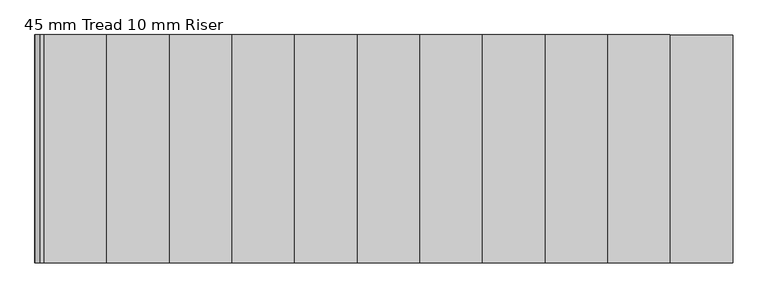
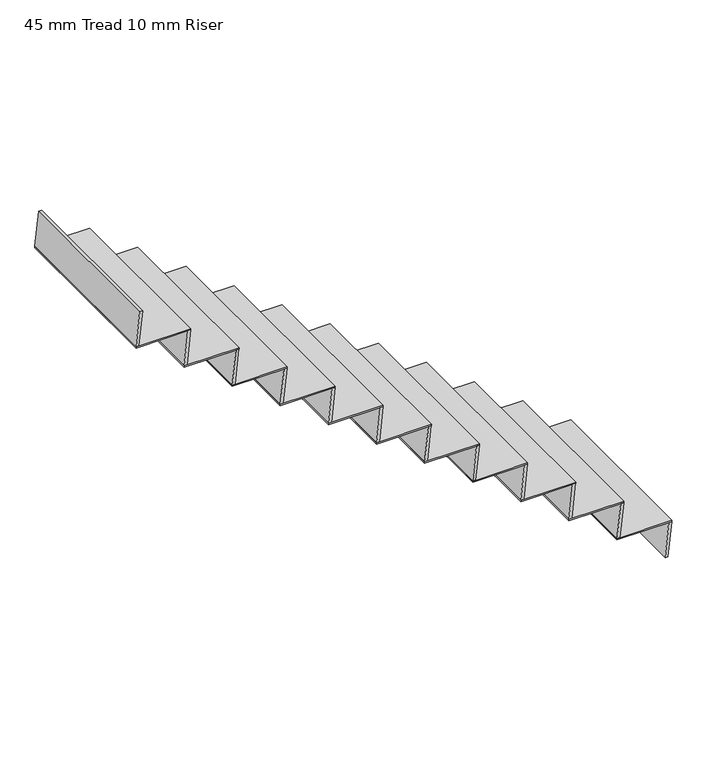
"""IFC4 building model written with IfcOpenShell, lengths in millimetres: stair flight geometry, 45 mm Tread 10 mm Riser."""

from ifc_helpers import new_model, si_unit, frame, origin, place, context, project, spatial, polyline, outline, extrude, source, transform, mapped, element, save


def stair_flight_45_mm_tread_10_mm_riser_8d5d8b70(model_context):
    return source(origin(), model_context, "Body", "SweptSolid", [
        extrude(outline(polyline([(14700.5000334, 7849.9999985), (14415.4195906, 7849.9999985), (14415.4195906, 8759.9999985), (14700.5000334, 8759.9999985), (14700.5000334, 7849.9999985)])), frame((0.0, 0.0, 8621.0714286), z_axis=(0.0, 0.0, 1.0), x_axis=(1.0, 0.0, 0.0)), (0.0, 0.0, 1.0), 7.5),
        extrude(outline(polyline([(8621.0714286, 14699.7222556), (8621.0714286, 14684.6418129), (8435.7142857, 14665.4195906), (8435.7142857, 14680.5000334), (8621.0714286, 14699.7222556)])), frame((0.0, 7849.9999985, 0.0), z_axis=(0.0, 1.0, 0.0), x_axis=(0.0, 0.0, 1.0)), (0.0, 0.0, 1.0), 910.0),
        extrude(outline(polyline([(8813.9285714, 14449.7222556), (8813.9285714, 14434.6418129), (8628.5714286, 14415.4195906), (8628.5714286, 14430.5000334), (8813.9285714, 14449.7222556)])), frame((0.0, 7849.9999985, 0.0), z_axis=(0.0, 1.0, 0.0), x_axis=(0.0, 0.0, 1.0)), (0.0, 0.0, 1.0), 910.0),
        extrude(outline(polyline([(14450.5000334, 7849.9999985), (14165.4195906, 7849.9999985), (14165.4195906, 8759.9999985), (14450.5000334, 8759.9999985), (14450.5000334, 7849.9999985)])), frame((0.0, 0.0, 8813.9285714), z_axis=(0.0, 0.0, 1.0), x_axis=(1.0, 0.0, 0.0)), (0.0, 0.0, 1.0), 7.5),
        extrude(outline(polyline([(9006.7857143, 14199.7222556), (9006.7857143, 14184.6418129), (8821.4285714, 14165.4195906), (8821.4285714, 14180.5000334), (9006.7857143, 14199.7222556)])), frame((0.0, 7849.9999985, 0.0), z_axis=(0.0, 1.0, 0.0), x_axis=(0.0, 0.0, 1.0)), (0.0, 0.0, 1.0), 910.0),
        extrude(outline(polyline([(14200.5000334, 7849.9999985), (13915.4195906, 7849.9999985), (13915.4195906, 8759.9999985), (14200.5000334, 8759.9999985), (14200.5000334, 7849.9999985)])), frame((0.0, 0.0, 9006.7857143), z_axis=(0.0, 0.0, 1.0), x_axis=(1.0, 0.0, 0.0)), (0.0, 0.0, 1.0), 7.5),
        extrude(outline(polyline([(9199.6428571, 13949.7222556), (9199.6428571, 13934.6418129), (9014.2857143, 13915.4195906), (9014.2857143, 13930.5000334), (9199.6428571, 13949.7222556)])), frame((0.0, 7849.9999985, 0.0), z_axis=(0.0, 1.0, 0.0), x_axis=(0.0, 0.0, 1.0)), (0.0, 0.0, 1.0), 910.0),
        extrude(outline(polyline([(13950.5000334, 7849.9999985), (13665.4195906, 7849.9999985), (13665.4195906, 8759.9999985), (13950.5000334, 8759.9999985), (13950.5000334, 7849.9999985)])), frame((0.0, 0.0, 9199.6428571), z_axis=(0.0, 0.0, 1.0), x_axis=(1.0, 0.0, 0.0)), (0.0, 0.0, 1.0), 7.5),
        extrude(outline(polyline([(9392.5, 13699.7222556), (9392.5, 13684.6418129), (9207.1428571, 13665.4195906), (9207.1428571, 13680.5000334), (9392.5, 13699.7222556)])), frame((0.0, 7849.9999985, 0.0), z_axis=(0.0, 1.0, 0.0), x_axis=(0.0, 0.0, 1.0)), (0.0, 0.0, 1.0), 910.0),
        extrude(outline(polyline([(13700.5000334, 7849.9999985), (13415.4195906, 7849.9999985), (13415.4195906, 8759.9999985), (13700.5000334, 8759.9999985), (13700.5000334, 7849.9999985)])), frame((0.0, 0.0, 9392.5), z_axis=(0.0, 0.0, 1.0), x_axis=(1.0, 0.0, 0.0)), (0.0, 0.0, 1.0), 7.5),
        extrude(outline(polyline([(9585.3571429, 13449.7222556), (9585.3571429, 13434.6418129), (9400.0, 13415.4195906), (9400.0, 13430.5000334), (9585.3571429, 13449.7222556)])), frame((0.0, 7849.9999985, 0.0), z_axis=(0.0, 1.0, 0.0), x_axis=(0.0, 0.0, 1.0)), (0.0, 0.0, 1.0), 910.0),
        extrude(outline(polyline([(13450.5000334, 7849.9999985), (13165.4195906, 7849.9999985), (13165.4195906, 8759.9999985), (13450.5000334, 8759.9999985), (13450.5000334, 7849.9999985)])), frame((0.0, 0.0, 9585.3571429), z_axis=(0.0, 0.0, 1.0), x_axis=(1.0, 0.0, 0.0)), (0.0, 0.0, 1.0), 7.5),
        extrude(outline(polyline([(9778.2142857, 13199.7222556), (9778.2142857, 13184.6418129), (9592.8571429, 13165.4195906), (9592.8571429, 13180.5000334), (9778.2142857, 13199.7222556)])), frame((0.0, 7849.9999985, 0.0), z_axis=(0.0, 1.0, 0.0), x_axis=(0.0, 0.0, 1.0)), (0.0, 0.0, 1.0), 910.0),
        extrude(outline(polyline([(13200.5000334, 7849.9999985), (12915.4195906, 7849.9999985), (12915.4195906, 8759.9999985), (13200.5000334, 8759.9999985), (13200.5000334, 7849.9999985)])), frame((0.0, 0.0, 9778.2142857), z_axis=(0.0, 0.0, 1.0), x_axis=(1.0, 0.0, 0.0)), (0.0, 0.0, 1.0), 7.5),
        extrude(outline(polyline([(9971.0714286, 12949.7222556), (9971.0714286, 12934.6418129), (9785.7142857, 12915.4195906), (9785.7142857, 12930.5000334), (9971.0714286, 12949.7222556)])), frame((0.0, 7849.9999985, 0.0), z_axis=(0.0, 1.0, 0.0), x_axis=(0.0, 0.0, 1.0)), (0.0, 0.0, 1.0), 910.0),
        extrude(outline(polyline([(12950.5000334, 7849.9999985), (12665.4195906, 7849.9999985), (12665.4195906, 8759.9999985), (12950.5000334, 8759.9999985), (12950.5000334, 7849.9999985)])), frame((0.0, 0.0, 9971.0714286), z_axis=(0.0, 0.0, 1.0), x_axis=(1.0, 0.0, 0.0)), (0.0, 0.0, 1.0), 7.5),
        extrude(outline(polyline([(10163.9285714, 12699.7222556), (10163.9285714, 12684.6418129), (9978.5714286, 12665.4195906), (9978.5714286, 12680.5000334), (10163.9285714, 12699.7222556)])), frame((0.0, 7849.9999985, 0.0), z_axis=(0.0, 1.0, 0.0), x_axis=(0.0, 0.0, 1.0)), (0.0, 0.0, 1.0), 910.0),
        extrude(outline(polyline([(12700.5000334, 7849.9999985), (12415.4195906, 7849.9999985), (12415.4195906, 8759.9999985), (12700.5000334, 8759.9999985), (12700.5000334, 7849.9999985)])), frame((0.0, 0.0, 10163.9285714), z_axis=(0.0, 0.0, 1.0), x_axis=(1.0, 0.0, 0.0)), (0.0, 0.0, 1.0), 7.5),
        extrude(outline(polyline([(10356.7857143, 12449.7222556), (10356.7857143, 12434.6418129), (10171.4285714, 12415.4195906), (10171.4285714, 12430.5000334), (10356.7857143, 12449.7222556)])), frame((0.0, 7849.9999985, 0.0), z_axis=(0.0, 1.0, 0.0), x_axis=(0.0, 0.0, 1.0)), (0.0, 0.0, 1.0), 910.0),
        extrude(outline(polyline([(12450.5000334, 7849.9999985), (12165.4195906, 7849.9999985), (12165.4195906, 8759.9999985), (12450.5000334, 8759.9999985), (12450.5000334, 7849.9999985)])), frame((0.0, 0.0, 10356.7857143), z_axis=(0.0, 0.0, 1.0), x_axis=(1.0, 0.0, 0.0)), (0.0, 0.0, 1.0), 7.5),
        extrude(outline(polyline([(10549.6428571, 12199.7222556), (10549.6428571, 12184.6418129), (10364.2857143, 12165.4195906), (10364.2857143, 12180.5000334), (10549.6428571, 12199.7222556)])), frame((0.0, 7849.9999985, 0.0), z_axis=(0.0, 1.0, 0.0), x_axis=(0.0, 0.0, 1.0)), (0.0, 0.0, 1.0), 910.0),
        extrude(outline(polyline([(10742.5, 11949.7222556), (10742.5, 11934.6418129), (10557.1428571, 11915.4195906), (10557.1428571, 11930.5000334), (10742.5, 11949.7222556)])), frame((0.0, 7849.9999985, 0.0), z_axis=(0.0, 1.0, 0.0), x_axis=(0.0, 0.0, 1.0)), (0.0, 0.0, 1.0), 910.0),
        extrude(outline(polyline([(12200.5000334, 7849.9999985), (11915.4195906, 7849.9999985), (11915.4195906, 8759.9999985), (12200.5000334, 8759.9999985), (12200.5000334, 7849.9999985)])), frame((0.0, 0.0, 10549.6428571), z_axis=(0.0, 0.0, 1.0), x_axis=(1.0, 0.0, 0.0)), (0.0, 0.0, 1.0), 7.5),
    ])


if __name__ == "__main__":
    model = new_model("IFC4")
    model_context = context("Model", 3, world=origin())
    ifc_project = project(units=[si_unit("LENGTHUNIT", "METRE", prefix="MILLI")], contexts=[model_context])
    site = spatial("IfcSite", under=ifc_project)
    building = spatial("IfcBuilding", under=site)
    placement = place(None, origin())
    stair_flight_45_mm_tread_10_mm_riser_shape = stair_flight_45_mm_tread_10_mm_riser_8d5d8b70(model_context)
    element("IfcStairFlight", 1, ObjectType="45 mm Tread 10 mm Riser", at=placement, inside=building, context=model_context, shape_type="MappedRepresentation", body=[
        mapped(stair_flight_45_mm_tread_10_mm_riser_shape, transform((0.0, 0.0, 0.0), x_axis=(1.0, 0.0, 0.0), y_axis=(0.0, 1.0, 0.0), z_axis=(0.0, 0.0, 1.0))),
    ])
    save(model, "model.ifc")
